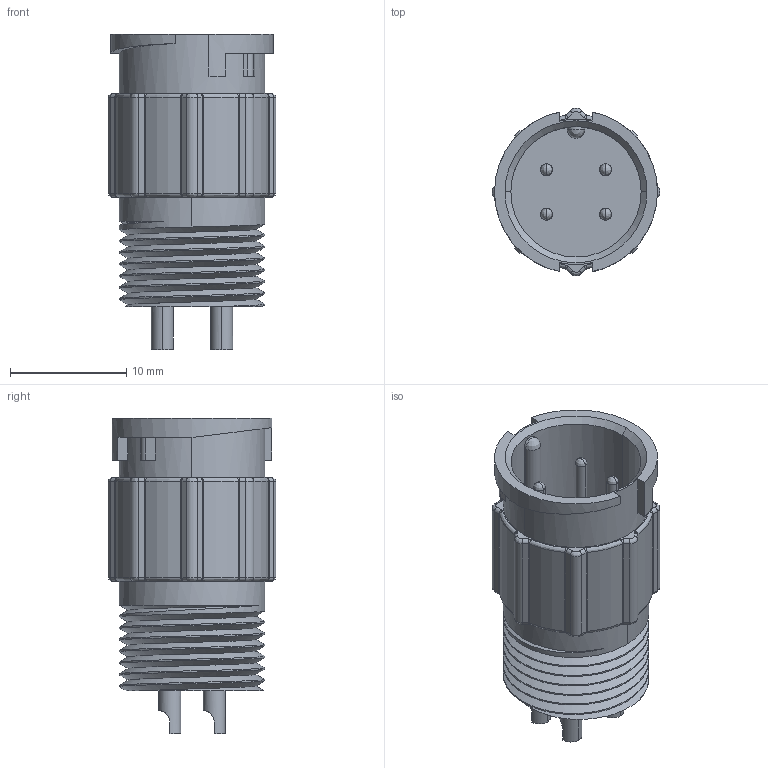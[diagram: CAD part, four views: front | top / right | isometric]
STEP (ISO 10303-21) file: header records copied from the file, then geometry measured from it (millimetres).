
FILE_DESCRIPTION (( 'STEP AP203' ), '1' );
FILE_NAME ('868-04B-103R001.STEP', '2025-12-23T16:06:06', ( '' ), ( '' ), 'SwSTEP 2.0', 'SolidWorks 2020', '' );
FILE_SCHEMA (( 'CONFIG_CONTROL_DESIGN' ));
Length unit declared in the file: millimetre
Products named in the file (1): 868-04B-103R001
Bounding box: 14.39 x 14.39 x 27.1 mm (x, y, z)
Volume: 1976.6 mm3; surface area: 2498.4 mm2
Topology: 1 solids, 1 shells, 316 faces, 763 edges, 448 vertices
Faces by surface type: cylinder 141, bspline 84, plane 56, cone 35
Entity records: 15611 total; most frequent: CARTESIAN_POINT 8756, ORIENTED_EDGE 1492, DIRECTION 1339, EDGE_CURVE 746, AXIS2_PLACEMENT_3D 525, VERTEX_POINT 448, EDGE_LOOP 332, ADVANCED_FACE 316
